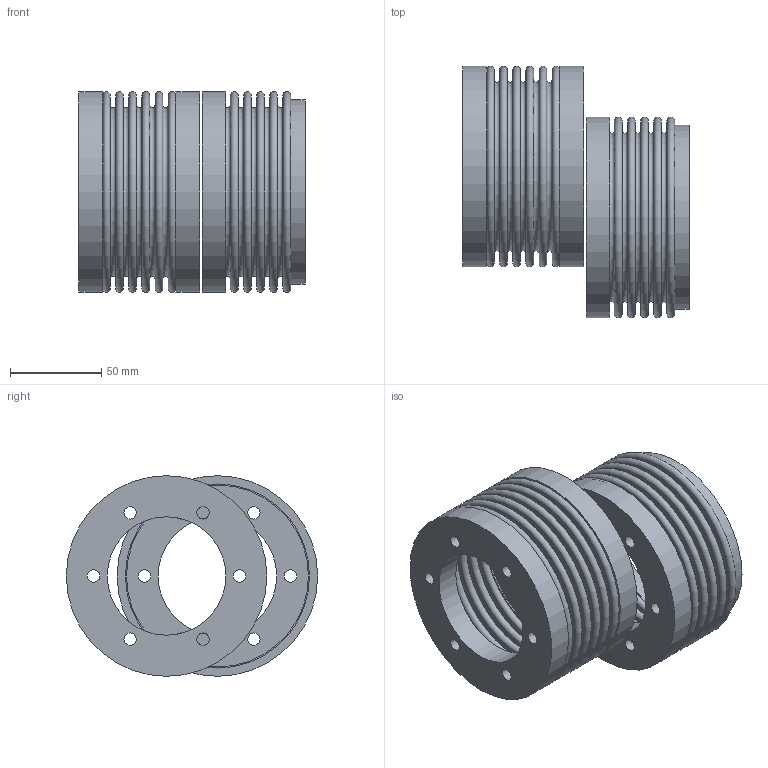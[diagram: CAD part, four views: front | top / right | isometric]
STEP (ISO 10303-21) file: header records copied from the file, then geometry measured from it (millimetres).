
FILE_DESCRIPTION( ( 'Unknown' ), '1' );
FILE_NAME( 'C:/Dokumente und Einstellungen/Sven/Desktop/homepage/cad - homepage/KB7/KB7-300-66.stp', 'Unknown', ( 'Unknown' ), ( 'Unknown' ), 'XStep 1.0', 'Unknown', ' ' );
FILE_SCHEMA( ( 'automotive_design' ) );
Length unit declared in the file: millimetre
Products named in the file (3): Assem1; FN300_Standard_0; BL300_Standard
Bounding box: 124.14 x 137.9 x 110 mm (x, y, z)
Volume: 284908.7 mm3; surface area: 236969.8 mm2
Topology: 5 solids, 5 shells, 134 faces, 228 edges, 152 vertices
Faces by surface type: plane 58, torus 44, cylinder 32
Full cylindrical faces by diameter (mm): 6.8 x18, 65 x3, 99.8 x4, 101 x4, 110 x3
Entity records: 1474 total; most frequent: DIRECTION 268, CARTESIAN_POINT 202, EDGE_LOOP 136, ORIENTED_EDGE 136, AXIS2_PLACEMENT_3D 134, FACE_OUTER_BOUND 96, EDGE_CURVE 68, VERTEX_POINT 68
